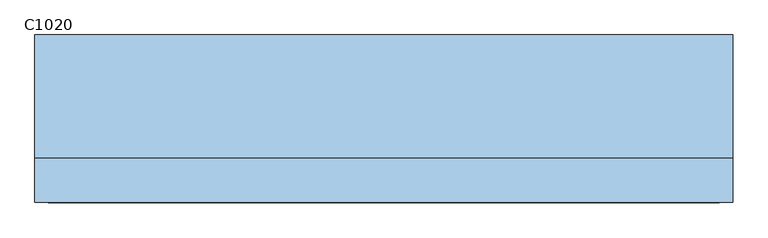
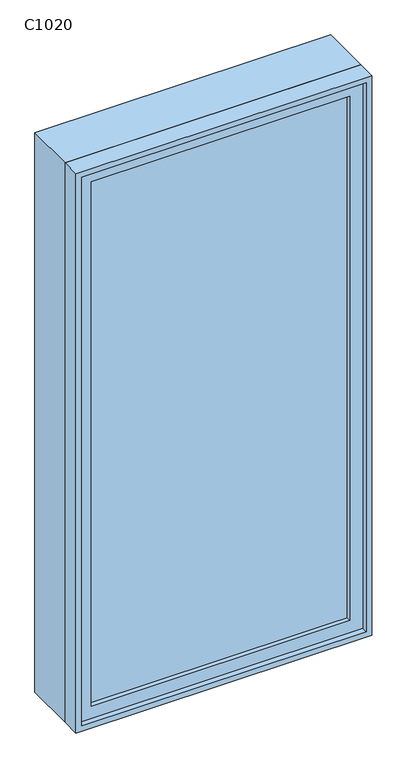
"""IFC4 building model written with IfcOpenShell, lengths in millimetres: window geometry, 固定 : C1020."""

from ifc_helpers import new_model, si_unit, frame, origin, place, context, project, spatial, polyline, outline, extrude, source, transform, mapped, element, save


def c1020_fcb93966(model_context):
    return source(origin(), model_context, "Body", "SweptSolid", [
        extrude(outline(polyline([(-437.0, -98.0), (-437.0, -86.0), (437.0, -86.0), (437.0, -98.0), (-437.0, -98.0)])), frame((0.0, 0.0, 963.0), z_axis=(0.0, 0.0, 1.0), x_axis=(1.0, 0.0, 0.0)), (0.0, 0.0, 1.0), 1874.0),
        extrude(outline(polyline([(2881.0, -481.0), (919.0, -481.0), (919.0, 481.0), (2881.0, 481.0), (2881.0, -481.0)]), holes=[polyline([(2837.0, -437.0), (2837.0, 437.0), (963.0, 437.0), (963.0, -437.0), (2837.0, -437.0)])]), frame((0.0, -114.0, 0.0), z_axis=(0.0, 1.0, 0.0), x_axis=(0.0, 0.0, 1.0)), (0.0, 0.0, 1.0), 44.0),
        extrude(outline(polyline([(2900.0, -500.0), (900.0, -500.0), (900.0, 500.0), (2900.0, 500.0), (2900.0, -500.0)]), holes=[polyline([(2881.0, -481.0), (2881.0, 481.0), (919.0, 481.0), (919.0, -481.0), (2881.0, -481.0)])]), frame((0.0, -133.0, 0.0), z_axis=(0.0, 1.0, 0.0), x_axis=(0.0, 0.0, 1.0)), (0.0, 0.0, 1.0), 63.0),
        extrude(outline(polyline([(2900.0, -500.0), (900.0, -500.0), (900.0, 500.0), (2900.0, 500.0), (2900.0, -500.0)]), holes=[polyline([(2868.0, -468.0), (2868.0, 468.0), (932.0, 468.0), (932.0, -468.0), (2868.0, -468.0)])]), frame((0.0, -70.0, 0.0), z_axis=(0.0, 1.0, 0.0), x_axis=(0.0, 0.0, 1.0)), (0.0, 0.0, 1.0), 177.0),
    ])


if __name__ == "__main__":
    model = new_model("IFC4")
    model_context = context("Model", 3, world=origin())
    ifc_project = project(units=[si_unit("LENGTHUNIT", "METRE", prefix="MILLI")], contexts=[model_context])
    site = spatial("IfcSite", under=ifc_project)
    building = spatial("IfcBuilding", under=site)
    placement = place(None, origin())
    c1020_shape = c1020_fcb93966(model_context)
    element("IfcWindow", 1, ObjectType="固定 : C1020", at=placement, inside=building, context=model_context, shape_type="MappedRepresentation", body=[
        mapped(c1020_shape, transform((0.0, 0.0, 0.0), x_axis=(1.0, 0.0, 0.0), y_axis=(0.0, 1.0, 0.0), z_axis=(0.0, 0.0, 1.0))),
    ])
    save(model, "model.ifc")
